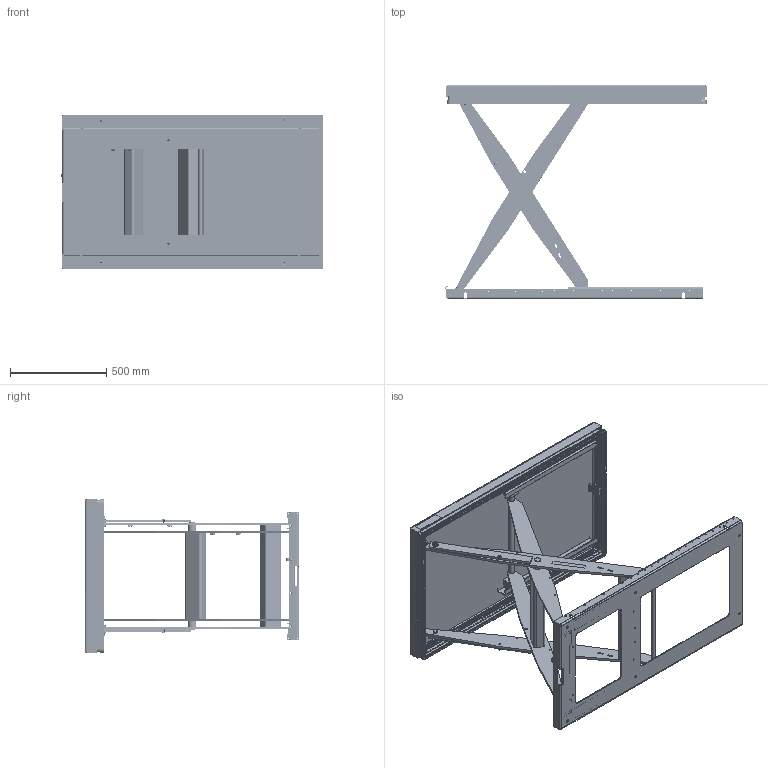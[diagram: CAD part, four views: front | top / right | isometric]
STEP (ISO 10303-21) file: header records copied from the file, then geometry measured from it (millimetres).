
FILE_DESCRIPTION(/* description */ ('TL 1000H'),/* implementation_level */ '2;1');
FILE_NAME(/* name */ 'C:\Autodesk_VaultWork\Ritningar\Exporterade modeller\TL 1000H - (613230)\613230_elevated.stp',/* time_stamp */ '2018-03-20T14:27:27+01:00',/* author */ ('HANVI'),/* organization */ (''),/* preprocessor_version */ 'ST-DEVELOPER v16.5',/* originating_system */ 'Autodesk Inventor 2017',/* authorisation */ '');
FILE_SCHEMA (('AUTOMOTIVE_DESIGN { 1 0 10303 214 3 1 1 }'));
Products named in the file (75): 613230; 613263; 613264; 613273; 613261; 613277; 83212; 42394; 613262; 613274; 613265; 42289-1305; 42289-755; 43481; 42330; 33990; 33991; 44283; 44280; 44279; Compression-Spring-SF-TF1272-SS1774-04-Lesjofors-STEP; ISO 7089 - 5 - 140 HV; 84253; 44281; 44281-1; ISO 2009 - M4 x 12; 84076; 83928; 44277; 44278; 33992; ISO 7380 - M4 x 10; 611843; 83552; 83207; 85799; 85232; 85240; 84088; 43998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
Assembly tree (142 placements, depth 5):
  613230
    613263
      613264
      613273
    613261
      613277  x2
      83212  x4
      42394  x2
      613262
      613274
    613265
      42289-1305  x2
      42289-755  x2
      43481  x4
      42330  x4
      33990  x2
        33991
        44283
        44280
        44279
        Compression-Spring-SF-TF1272-SS1774-04-Lesjofors-STEP
        ISO 7089 - 5 - 140 HV
        84253
        44281
          44281-1
          ISO 2009 - M4 x 12
        84076
        83928
        44277
        44278
        33992
        ISO 7380 - M4 x 10
      611843  x4
      83552  x4
    83207  x4
    85799
    85232
    85240  x2
    84088
    43998
      44721-1
      44721-2
    32707-10  x2
    32708  x2
    84400  x2
    33269  x2
    36604  x2
    84210  x2
    83245  x2
    84006  x2
    605342  x2
    613266
      613267
        - 446
        613271  x2
        44457  x2
        82536 - 514
        613278
      613268
        82154 - 530
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Bounding box: 1356.59 x 1110 x 800.2 mm (x, y, z)
Volume: 21365240.6 mm3; surface area: 7967121.1 mm2
Topology: 156 solids, 156 shells, 5687 faces, 14679 edges, 9457 vertices
Faces by surface type: plane 2863, cylinder 1568, cone 583, bspline 406, torus 258, sphere 9
Full cylindrical faces by diameter (mm): 0.474 x2, 1 x4, 2.3 x4, 3 x4, 3.141 x4, 3.2 x4, 3.242 x4, 4 x14, 4.3 x4, 4.445 x4, 4.7 x32, 4.9 x2, 4.917 x1, 5 x4, 5.1 x8, 5.156 x4, 5.2 x6, 5.3 x4, 5.6 x8, 5.969 x4, 6 x21, 6.4 x2, 6.6 x8, 6.647 x4, 6.7 x5, 6.8 x6, 7.4 x2, 7.6 x4, 8 x10, 8.5 x4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
Entity records: 89965 total; most frequent: CARTESIAN_POINT 22286, DIRECTION 13648, ORIENTED_EDGE 13350, EDGE_CURVE 6674, AXIS2_PLACEMENT_3D 4763, VERTEX_POINT 4421, LINE 4122, VECTOR 4122
